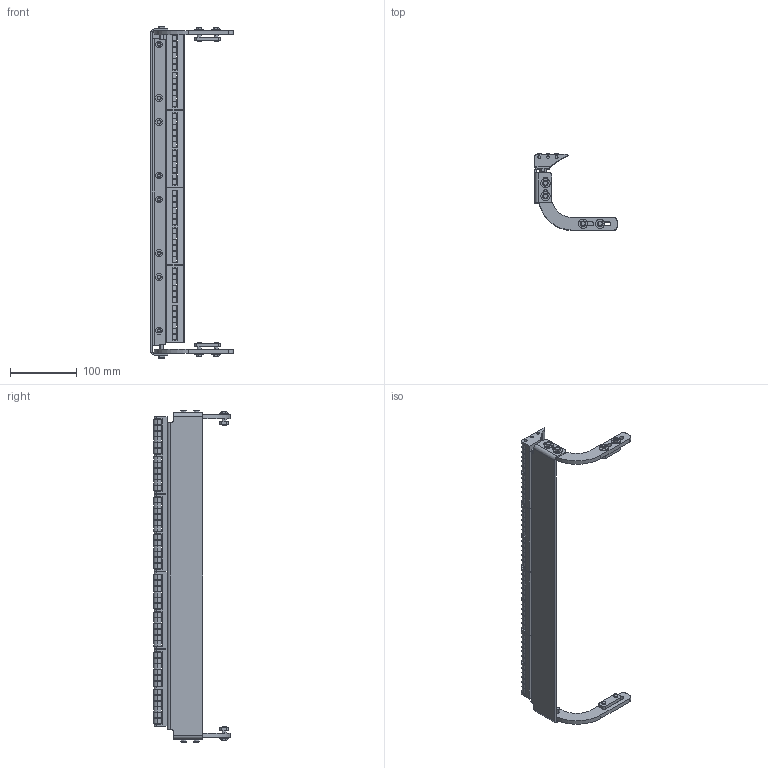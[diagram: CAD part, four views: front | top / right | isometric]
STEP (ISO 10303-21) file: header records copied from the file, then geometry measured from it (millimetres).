
FILE_DESCRIPTION((''),'2;1');
FILE_NAME('518355-18_ASM','2023-03-24T',('jenni.wallner'),(''),'PRO/ENGINEER BY PARAMETRIC TECHNOLOGY CORPORATION, 2012420','PRO/ENGINEER BY PARAMETRIC TECHNOLOGY CORPORATION, 2012420','');
FILE_SCHEMA(('CONFIG_CONTROL_DESIGN'));
Length unit declared in the file: inch
Products named in the file (44): 532387; 960616MSSF; 518353-WW_518353-18; 520309; 807-1830_22-1-SOLID1; 807-1830_26-1-SOLID1; 807-1830_25-1-SOLID1; 807-1830_35-1-SOLID1; 807-1830_31-1-SOLID1; 807-1830_30-1-SOLID1; 807-1830_16-1-SOLID1; 807-1830_3-1-SOLID1; 807-1830_5-1-SOLID1; 807-1830_15-1-SOLID1; 807-1830_13-1-SOLID1; 807-1830_9-1-SOLID1; 807-1830_33-1-SOLID1; 807-1830_27-1-SOLID1; 807-1830_11-1-SOLID1; 807-1830_21-1-SOLID1; 807-1830_28-1-SOLID1; 807-1830_36-1-SOLID1; 807-1830_6-1-SOLID1; 807-1830_18-1-SOLID1; 807-1830_29-1-SOLID1; 807-1830_2-1-SOLID1; 807-1830_7-1-SOLID1; 807-1830_24-1-SOLID1; 807-1830_19-1-SOLID1; 807-1830_4-1-SOLID1; 807-1830_23-1-SOLID1; 807-1830_34-1-SOLID1; 807-1830-1-SOLID1; 807-1830_20-1-SOLID1; 807-1830_32-1-SOLID1; 807-1830_14-1-SOLID1; 807-1830_10-1-SOLID1; 807-1830_8-1-SOLID1; 807-1830_1-1-SOLID1; 807-1830_17-1-SOLID1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
Assembly tree (55 placements, depth 4):
  518355-18_ASM
    ASM0001_ASM
      532387  x2
      960616MSSF  x8
      518353-WW_518353-18
      520309  x2
      807-1830_ASM  x4
        807-1830_22-1-SOLID1
        807-1830_26-1-SOLID1
        807-1830_25-1-SOLID1
        807-1830_35-1-SOLID1
        807-1830_31-1-SOLID1
        807-1830_30-1-SOLID1
        807-1830_16-1-SOLID1
        807-1830_3-1-SOLID1
        807-1830_5-1-SOLID1
        807-1830_15-1-SOLID1
        807-1830_13-1-SOLID1
        807-1830_9-1-SOLID1
        807-1830_33-1-SOLID1
        807-1830_27-1-SOLID1
        807-1830_11-1-SOLID1
        807-1830_21-1-SOLID1
        807-1830_28-1-SOLID1
        807-1830_36-1-SOLID1
        807-1830_6-1-SOLID1
        807-1830_18-1-SOLID1
        807-1830_29-1-SOLID1
        807-1830_2-1-SOLID1
        807-1830_7-1-SOLID1
        807-1830_24-1-SOLID1
        807-1830_19-1-SOLID1
        807-1830_4-1-SOLID1
        807-1830_23-1-SOLID1
        807-1830_34-1-SOLID1
        807-1830-1-SOLID1
        807-1830_20-1-SOLID1
        807-1830_32-1-SOLID1
        807-1830_14-1-SOLID1
        807-1830_10-1-SOLID1
        807-1830_8-1-SOLID1
        807-1830_1-1-SOLID1
        807-1830_17-1-SOLID1
        807-1830_12-1-SOLID1
Bounding box: 122.82 x 114.68 x 495.72 mm (x, y, z)
Volume: 382141.6 mm3; surface area: 231903 mm2
Topology: 161 solids, 161 shells, 1150 faces, 2308 edges, 1520 vertices
Faces by surface type: plane 576, cylinder 526, cone 48
Entity records: 10932 total; most frequent: DIRECTION 2084, CARTESIAN_POINT 1782, ORIENTED_EDGE 1484, AXIS2_PLACEMENT_3D 852, EDGE_CURVE 742, VERTEX_POINT 488, EDGE_LOOP 402, VECTOR 380
